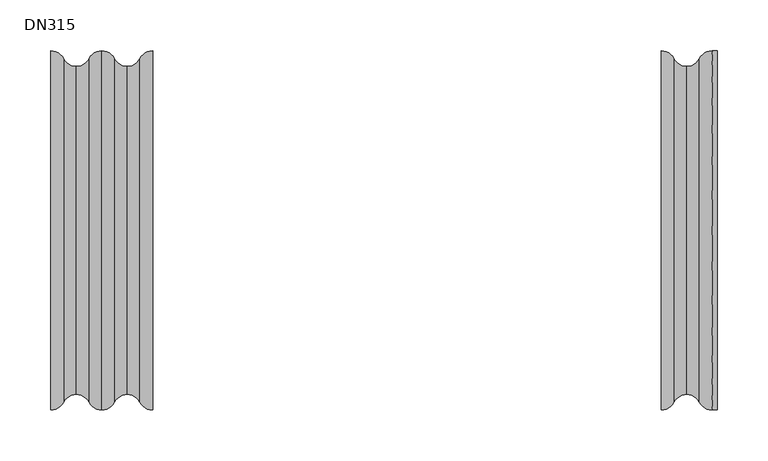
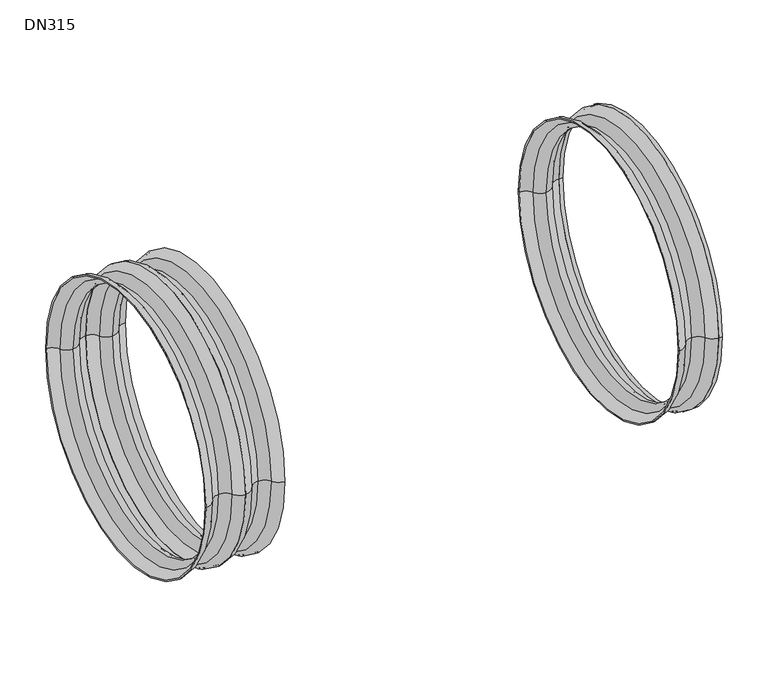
"""IFC4 building model written with IfcOpenShell, lengths in millimetres: pipe fitting geometry, NLRS-90-PIF_Z_DO_NOT_USE_Wavin PVC Buitenriolering Schachtbuis (Nested) : DN315."""

import ifcopenshell
import ifcopenshell.guid

model = None  # the IFC model being written
_history = None  # IfcOwnerHistory: only IFC2X3 demands one
_inside = {}  # id of a spatial element -> (the spatial element, [elements in it])
_under = {}  # id of a project, library or spatial element -> (it, [spatial elements below it])
_declared = {}  # id of a project -> (the project, [libraries it declares])
_typed = {}  # id of a type object -> (the type object, [elements of that type])
_made_of = {}  # id of a material, layer set ... -> (it, [elements and type objects made of it])


def new_model(schema):
    """Start an empty IFC model of exactly this schema.

    Asked for "IFC4X3", IfcOpenShell would pick the latest addendum, in which some entities
    have other attributes; the version numbers below select the first issue.
    IFC2X3 requires an IfcOwnerHistory on every rooted entity: one is made here for all.
    """
    global model, _history
    if schema == "IFC4X3":
        model = ifcopenshell.file(schema_version=(4, 3, 0, 0))
    else:
        model = ifcopenshell.file(schema=schema)
    _inside.clear()
    _under.clear()
    _declared.clear()
    _typed.clear()
    _made_of.clear()
    _history = None
    if model.schema == "IFC2X3":
        org = make("IfcOrganization", Name="unknown")
        user = make(
            "IfcPersonAndOrganization",
            ThePerson=make("IfcPerson", FamilyName="unknown"),
            TheOrganization=org,
        )
        app = make(
            "IfcApplication",
            ApplicationDeveloper=org,
            Version="unknown",
            ApplicationFullName="unknown",
            ApplicationIdentifier="unknown",
        )
        _history = make(
            "IfcOwnerHistory",
            OwningUser=user,
            OwningApplication=app,
            ChangeAction="ADDED",
            CreationDate=0,
        )
    return model


def make(cls, **values):
    """One entity of the class cls with the attributes given. An attribute that is None is left unset."""
    return model.create_entity(
        cls, **{name: value for name, value in values.items() if value is not None}
    )


def rooted(cls, **values):
    """An entity with a GlobalId (a new one), such as an element, a storey or a relation."""
    return make(cls, GlobalId=ifcopenshell.guid.new(), OwnerHistory=_history, **values)


def si_unit(unit_type, name, prefix=None):
    """IfcSIUnit, for example si_unit("LENGTHUNIT", "METRE", prefix="MILLI")."""
    return make("IfcSIUnit", UnitType=unit_type, Prefix=prefix, Name=name)


def assignment(units):
    """IfcUnitAssignment: the units of a project."""
    return None if units is None else make("IfcUnitAssignment", Units=units)


def point(xyz):
    """IfcCartesianPoint."""
    return None if xyz is None else make("IfcCartesianPoint", Coordinates=xyz)


def direction(xyz):
    """IfcDirection."""
    return None if xyz is None else make("IfcDirection", DirectionRatios=xyz)


def frame(location, z_axis=None, x_axis=None):
    """IfcAxis2Placement3D, a coordinate frame: its origin and axes. An axis left out is left unset."""
    return make(
        "IfcAxis2Placement3D",
        Location=point(location),
        Axis=direction(z_axis),
        RefDirection=direction(x_axis),
    )


def origin():
    """The frame at (0, 0, 0) with its axes left unset."""
    return frame((0.0, 0.0, 0.0))


def place(relative_to, where):
    """IfcLocalPlacement: puts the frame where relative to a parent placement (None: the world)."""
    return make(
        "IfcLocalPlacement", PlacementRelTo=relative_to, RelativePlacement=where
    )


def context(
    kind, dimensions, precision=None, world=None, true_north=None, identifier=None
):
    """IfcGeometricRepresentationContext, for example the 3D "Model" context."""
    return make(
        "IfcGeometricRepresentationContext",
        ContextIdentifier=identifier,
        ContextType=kind,
        CoordinateSpaceDimension=dimensions,
        Precision=precision,
        WorldCoordinateSystem=world,
        TrueNorth=true_north,
    )


def project(units=None, contexts=None):
    """IfcProject with its units and contexts."""
    return rooted(
        "IfcProject",
        Name="project",
        RepresentationContexts=contexts,
        UnitsInContext=assignment(units),
    )


def spatial(cls, under=None, at=None, **own):
    """A site, building, storey or space (cls), placed at a placement, below another one or the project."""
    s = rooted(cls, ObjectPlacement=at, **own)
    if under is not None:
        _under.setdefault(under.id(), (under, []))[1].append(s)
    return s


def polyline(points):
    """IfcPolyline through the points."""
    return make("IfcPolyline", Points=[point(p) for p in points])


def circle_curve(where, radius):
    """IfcCircle in the frame where."""
    return make("IfcCircle", Position=where, Radius=radius)


def ellipse_curve(where, semi_axis1, semi_axis2):
    """IfcEllipse in the frame where."""
    return make(
        "IfcEllipse", Position=where, SemiAxis1=semi_axis1, SemiAxis2=semi_axis2
    )


def trimmed(basis, trim1, trim2, sense, master):
    """IfcTrimmedCurve: the piece of a basis curve between two trims."""
    return make(
        "IfcTrimmedCurve",
        BasisCurve=basis,
        Trim1=trim1,
        Trim2=trim2,
        SenseAgreement=sense,
        MasterRepresentation=master,
    )


def shape(context_of_items, identifier, shape_type, items):
    """IfcShapeRepresentation: the items that make up one representation, for example the "Body"."""
    return make(
        "IfcShapeRepresentation",
        ContextOfItems=context_of_items,
        RepresentationIdentifier=identifier,
        RepresentationType=shape_type,
        Items=items,
    )


def source(mapping_origin, context_of_items, identifier, shape_type, items):
    """IfcRepresentationMap: a shape defined once, which mapped items show again and again."""
    return make(
        "IfcRepresentationMap",
        MappingOrigin=mapping_origin,
        MappedRepresentation=shape(context_of_items, identifier, shape_type, items),
    )


def transform(
    local_origin,
    x_axis=None,
    y_axis=None,
    z_axis=None,
    scale=None,
    scale2=None,
    scale3=None,
    uniform=True,
):
    """IfcCartesianTransformationOperator3D, or its non-uniform kind. x_axis, y_axis, z_axis: its Axis1, 2, 3."""
    if uniform:
        return make(
            "IfcCartesianTransformationOperator3D",
            Axis1=direction(x_axis),
            Axis2=direction(y_axis),
            LocalOrigin=point(local_origin),
            Scale=scale,
            Axis3=direction(z_axis),
        )
    return make(
        "IfcCartesianTransformationOperator3DnonUniform",
        Axis1=direction(x_axis),
        Axis2=direction(y_axis),
        LocalOrigin=point(local_origin),
        Scale=scale,
        Axis3=direction(z_axis),
        Scale2=scale2,
        Scale3=scale3,
    )


def mapped(mapping_source, mapping_target):
    """IfcMappedItem: shows the shape of a source again, moved by a transform."""
    return make(
        "IfcMappedItem", MappingSource=mapping_source, MappingTarget=mapping_target
    )


def made_of(thing, what):
    """Note that an element or type object is made of a material, layer set ...; save() writes the relation."""
    if what is not None:
        _made_of.setdefault(what.id(), (what, []))[1].append(thing)
    return thing


def element(
    cls,
    number,
    at=None,
    inside=None,
    cuts=None,
    type_object=None,
    material=None,
    context=None,
    identifier="Body",
    shape_type=None,
    held_by="IfcProductDefinitionShape",
    body=None,
    shapes=None,
    **own,
):
    """One element of the class cls, such as IfcWall. Its Tag is "e" and its number.

    at: its placement. inside: the storey or other place that contains it. cuts: it is an
    opening in that element (IfcRelVoidsElement). A single representation is given by context,
    identifier, shape_type and body (its items); several are given by shapes. held_by: the class
    of the entity that holds the representations. save() writes the other relations.
    """
    e = rooted(cls, Tag="e%d" % number, ObjectPlacement=at, **own)
    if body is not None:
        shapes = [shape(context, identifier, shape_type, body)]
    if shapes is not None:
        e.Representation = make(held_by, Representations=shapes)
    if inside is not None:
        _inside.setdefault(inside.id(), (inside, []))[1].append(e)
    if cuts is not None:
        rooted(
            "IfcRelVoidsElement", RelatingBuildingElement=cuts, RelatedOpeningElement=e
        )
    if type_object is not None:
        _typed.setdefault(type_object.id(), (type_object, []))[1].append(e)
    return made_of(e, material)


def aggregate(whole, parts):
    """IfcRelAggregates: a whole, such as a stair, and the parts it consists of."""
    return rooted("IfcRelAggregates", RelatingObject=whole, RelatedObjects=parts)


def save(model, path):
    """Write the relations noted so far, then the file.

    IfcRelAggregates (storeys below a building ...), IfcRelContainedInSpatialStructure (elements
    in a storey), IfcRelDefinesByType, IfcRelAssociatesMaterial and IfcRelDeclares: one each for
    every whole, place, type object, material and project.
    """
    for whole, parts in _under.values():
        aggregate(whole, parts)
    for where, things in _inside.values():
        rooted(
            "IfcRelContainedInSpatialStructure",
            RelatedElements=things,
            RelatingStructure=where,
        )
    for kind, things in _typed.values():
        rooted("IfcRelDefinesByType", RelatedObjects=things, RelatingType=kind)
    for what, things in _made_of.values():
        rooted("IfcRelAssociatesMaterial", RelatedObjects=things, RelatingMaterial=what)
    for by, libraries in _declared.values():
        rooted("IfcRelDeclares", RelatingContext=by, RelatedDefinitions=libraries)
    model.write(path)


def plane_surface(at):
    """IfcPlane: the flat surface through the origin of the frame at, square to its z axis."""
    return make("IfcPlane", Position=at)


def cylinder_surface(at, radius):
    """IfcCylindricalSurface: all points at the distance radius from the z axis of the frame at."""
    return make("IfcCylindricalSurface", Position=at, Radius=radius)


def revolved_surface(curve, axis_point, axis_direction):
    """IfcSurfaceOfRevolution: the curve turned about the line through axis_point along axis_direction."""
    return make(
        "IfcSurfaceOfRevolution",
        SweptCurve=make("IfcArbitraryOpenProfileDef", ProfileType="CURVE", Curve=curve),
        AxisPosition=make("IfcAxis1Placement", Location=point(axis_point), Axis=direction(axis_direction)),
    )


def advanced_brep(points, edges, surfaces, faces):
    """IfcAdvancedBrep: a solid bounded by faces that lie on surfaces and meet in shared edges.

    An edge is (start, end): straight between two places in points (the first is 0);
    or (start, end, curve); or (start, end, curve, False) where it runs against its curve.
    A face is (place in surfaces, loops), or (place, loops, False) where it looks against
    its surface's normal. A loop lists edges by number (the first is 1), with a minus sign
    where the edge is run from its end to its start. The first loop is the outer one.
    """
    corners = [point(p) for p in points]
    vertices = [make("IfcVertexPoint", VertexGeometry=c) for c in corners]
    made = []
    for start, end, *more in edges:
        made.append(
            make(
                "IfcEdgeCurve",
                EdgeStart=vertices[start],
                EdgeEnd=vertices[end],
                EdgeGeometry=more[0] if more else make("IfcPolyline", Points=[corners[start], corners[end]]),
                SameSense=more[1] if len(more) > 1 else True,
            )
        )
    hull = []
    for where, loops, *sense in faces:
        bounds = []
        for j, loop in enumerate(loops):
            ring = [make("IfcOrientedEdge", EdgeElement=made[abs(k) - 1], Orientation=k > 0) for k in loop]
            bounds.append(
                make(
                    "IfcFaceOuterBound" if j == 0 else "IfcFaceBound",
                    Bound=make("IfcEdgeLoop", EdgeList=ring),
                    Orientation=True,
                )
            )
        hull.append(make("IfcAdvancedFace", Bounds=bounds, FaceSurface=surfaces[where], SameSense=sense[0] if sense else True))
    return make("IfcAdvancedBrep", Outer=make("IfcClosedShell", CfsFaces=hull))


def dn315_4a5b688f(model_context):
    return source(origin(), model_context, "Body", "AdvancedBrep", [
        advanced_brep(
        [(50.0, -176.5, 0.0), (50.0, 176.5, 0.0), (62.5, 168.85, 0.0), (62.5, -168.85, 0.0), (50.0, -174.8, 0.0), (50.0, 174.8, 0.0), (62.5, -167.15, 0.0), (62.5, 167.15, 0.0), (75.0, -159.5, 0.0), (75.0, 159.5, 0.0), (87.5, -167.15, 0.0), (87.5, 167.15, 0.0), (100.0, -174.8, 0.0), (100.0, 174.8, 0.0), (100.0, -176.5, 0.0), (100.0, 176.5, 0.0), (87.5, -168.85, 0.0), (87.5, 168.85, 0.0), (75.0, -161.2, 0.0), (75.0, 161.2, 0.0)],
        [
            (0, 1, circle_curve(frame((50.0, 0.0, 0.0), z_axis=(1.0, 0.0, 0.0), x_axis=(0.0, 1.0, 0.0)), 176.5)),
            (1, 2, circle_curve(frame((50.0, 162.4625817, 0.0), z_axis=(0.0, 0.0, -1.0), x_axis=(1.0, 0.0, 0.0)), 14.0374183)),
            (2, 3, circle_curve(frame((62.5, 0.0, 0.0), z_axis=(-1.0, 0.0, 0.0), x_axis=(0.0, 1.0, 0.0)), 168.85)),
            (3, 0, circle_curve(frame((50.0, -162.4625817, 0.0), z_axis=(0.0, 0.0, -1.0), x_axis=(1.0, 0.0, 0.0)), 14.0374183)),
            (1, 0, circle_curve(frame((50.0, 0.0, 0.0), z_axis=(1.0, 0.0, 0.0), x_axis=(0.0, 1.0, 0.0)), 176.5)),
            (3, 2, circle_curve(frame((62.5, 0.0, 0.0), z_axis=(-1.0, 0.0, 0.0), x_axis=(0.0, 1.0, 0.0)), 168.85)),
            (4, 5, circle_curve(frame((50.0, 0.0, 0.0), z_axis=(1.0, 0.0, 0.0), x_axis=(0.0, 1.0, 0.0)), 174.8)),
            (5, 1),
            (0, 4),
            (5, 4, circle_curve(frame((50.0, 0.0, 0.0), z_axis=(1.0, 0.0, 0.0), x_axis=(0.0, 1.0, 0.0)), 174.8)),
            (6, 7, circle_curve(frame((62.5, 0.0, 0.0), z_axis=(1.0, 0.0, 0.0), x_axis=(0.0, 1.0, 0.0)), 167.15)),
            (7, 5, circle_curve(frame((50.0, 160.7625817, 0.0), z_axis=(0.0, 0.0, 1.0), x_axis=(1.0, 0.0, 0.0)), 14.0374183)),
            (4, 6, circle_curve(frame((50.0, -160.7625817, 0.0), z_axis=(0.0, 0.0, 1.0), x_axis=(1.0, 0.0, 0.0)), 14.0374183)),
            (7, 6, circle_curve(frame((62.5, 0.0, 0.0), z_axis=(1.0, 0.0, 0.0), x_axis=(0.0, 1.0, 0.0)), 167.15)),
            (8, 9, circle_curve(frame((75.0, 0.0, 0.0), z_axis=(1.0, 0.0, 0.0), x_axis=(0.0, 1.0, 0.0)), 159.5)),
            (9, 7, circle_curve(frame((75.0, 173.5374183, 0.0), z_axis=(0.0, 0.0, -1.0), x_axis=(1.0, 0.0, 0.0)), 14.0374183)),
            (6, 8, circle_curve(frame((75.0, -173.5374183, 0.0), z_axis=(0.0, 0.0, -1.0), x_axis=(1.0, 0.0, 0.0)), 14.0374183)),
            (9, 8, circle_curve(frame((75.0, 0.0, 0.0), z_axis=(1.0, 0.0, 0.0), x_axis=(0.0, 1.0, 0.0)), 159.5)),
            (10, 11, circle_curve(frame((87.5, 0.0, 0.0), z_axis=(1.0, 0.0, 0.0), x_axis=(0.0, 1.0, 0.0)), 167.15)),
            (11, 9, circle_curve(frame((75.0, 173.5374183, 0.0), z_axis=(0.0, 0.0, -1.0), x_axis=(1.0, 0.0, 0.0)), 14.0374183)),
            (8, 10, circle_curve(frame((75.0, -173.5374183, 0.0), z_axis=(0.0, 0.0, -1.0), x_axis=(1.0, 0.0, 0.0)), 14.0374183)),
            (11, 10, circle_curve(frame((87.5, 0.0, 0.0), z_axis=(1.0, 0.0, 0.0), x_axis=(0.0, 1.0, 0.0)), 167.15)),
            (12, 13, circle_curve(frame((100.0, 0.0, 0.0), z_axis=(1.0, 0.0, 0.0), x_axis=(0.0, 1.0, 0.0)), 174.8)),
            (13, 11, circle_curve(frame((100.0, 160.7625817, 0.0), z_axis=(0.0, 0.0, 1.0), x_axis=(1.0, 0.0, 0.0)), 14.0374183)),
            (10, 12, circle_curve(frame((100.0, -160.7625817, 0.0), z_axis=(0.0, 0.0, 1.0), x_axis=(1.0, 0.0, 0.0)), 14.0374183)),
            (13, 12, circle_curve(frame((100.0, 0.0, 0.0), z_axis=(1.0, 0.0, 0.0), x_axis=(0.0, 1.0, 0.0)), 174.8)),
            (14, 15, circle_curve(frame((100.0, 0.0, 0.0), z_axis=(1.0, 0.0, 0.0), x_axis=(0.0, 1.0, 0.0)), 176.5)),
            (15, 13),
            (12, 14),
            (15, 14, circle_curve(frame((100.0, 0.0, 0.0), z_axis=(1.0, 0.0, 0.0), x_axis=(0.0, 1.0, 0.0)), 176.5)),
            (16, 17, circle_curve(frame((87.5, 0.0, 0.0), z_axis=(1.0, 0.0, 0.0), x_axis=(0.0, 1.0, 0.0)), 168.85)),
            (17, 15, circle_curve(frame((100.0, 162.4625817, 0.0), z_axis=(0.0, 0.0, -1.0), x_axis=(1.0, 0.0, 0.0)), 14.0374183)),
            (14, 16, circle_curve(frame((100.0, -162.4625817, 0.0), z_axis=(0.0, 0.0, -1.0), x_axis=(1.0, 0.0, 0.0)), 14.0374183)),
            (17, 16, circle_curve(frame((87.5, 0.0, 0.0), z_axis=(1.0, 0.0, 0.0), x_axis=(0.0, 1.0, 0.0)), 168.85)),
            (18, 19, circle_curve(frame((75.0, 0.0, 0.0), z_axis=(1.0, 0.0, 0.0), x_axis=(0.0, 1.0, 0.0)), 161.2)),
            (19, 17, circle_curve(frame((75.0, 175.2374183, 0.0), z_axis=(0.0, 0.0, 1.0), x_axis=(1.0, 0.0, 0.0)), 14.0374183)),
            (16, 18, circle_curve(frame((75.0, -175.2374183, 0.0), z_axis=(0.0, 0.0, 1.0), x_axis=(1.0, 0.0, 0.0)), 14.0374183)),
            (19, 18, circle_curve(frame((75.0, 0.0, 0.0), z_axis=(1.0, 0.0, 0.0), x_axis=(0.0, 1.0, 0.0)), 161.2)),
            (2, 19, circle_curve(frame((75.0, 175.2374183, 0.0), z_axis=(0.0, 0.0, 1.0), x_axis=(1.0, 0.0, 0.0)), 14.0374183)),
            (18, 3, circle_curve(frame((75.0, -175.2374183, 0.0), z_axis=(0.0, 0.0, 1.0), x_axis=(1.0, 0.0, 0.0)), 14.0374183)),
        ],
        [
            revolved_surface(trimmed(ellipse_curve(frame((50.0, 162.4625817, 0.0), z_axis=(0.0, 0.0, 1.0), x_axis=(1.0, 0.0, 0.0)), 14.0374183, 14.0374183), [point((62.5, 168.85, 0.0))], [point((50.0, 176.5, 0.0))], True, "CARTESIAN"), (0.0, 0.0, 0.0), (-1.0, 0.0, 0.0)),
            plane_surface(frame((50.0, 0.0, 0.0), z_axis=(-1.0, 0.0, 0.0), x_axis=(0.0, 1.0, 0.0))),
            revolved_surface(trimmed(ellipse_curve(frame((50.0, 160.7625817, 0.0), z_axis=(0.0, 0.0, -1.0), x_axis=(1.0, 0.0, 0.0)), 14.0374183, 14.0374183), [point((50.0, 174.8, 0.0))], [point((62.5, 167.15, 0.0))], True, "CARTESIAN"), (0.0, 0.0, 0.0), (-1.0, 0.0, 0.0)),
            revolved_surface(trimmed(ellipse_curve(frame((75.0, 173.5374183, 0.0), z_axis=(0.0, 0.0, 1.0), x_axis=(1.0, 0.0, 0.0)), 14.0374183, 14.0374183), [point((62.5, 167.15, 0.0))], [point((75.0, 159.5, 0.0))], True, "CARTESIAN"), (0.0, 0.0, 0.0), (-1.0, 0.0, 0.0)),
            revolved_surface(trimmed(ellipse_curve(frame((75.0, 173.5374183, 0.0), z_axis=(0.0, 0.0, 1.0), x_axis=(1.0, 0.0, 0.0)), 14.0374183, 14.0374183), [point((75.0, 159.5, 0.0))], [point((87.5, 167.15, 0.0))], True, "CARTESIAN"), (0.0, 0.0, 0.0), (-1.0, 0.0, 0.0)),
            revolved_surface(trimmed(ellipse_curve(frame((100.0, 160.7625817, 0.0), z_axis=(0.0, 0.0, -1.0), x_axis=(1.0, 0.0, 0.0)), 14.0374183, 14.0374183), [point((87.5, 167.15, 0.0))], [point((100.0, 174.8, 0.0))], True, "CARTESIAN"), (0.0, 0.0, 0.0), (-1.0, 0.0, 0.0)),
            plane_surface(frame((100.0, 0.0, 0.0), z_axis=(1.0, 0.0, 0.0), x_axis=(0.0, 1.0, 0.0))),
            revolved_surface(trimmed(ellipse_curve(frame((100.0, 162.4625817, 0.0), z_axis=(0.0, 0.0, 1.0), x_axis=(1.0, 0.0, 0.0)), 14.0374183, 14.0374183), [point((100.0, 176.5, 0.0))], [point((87.5, 168.85, 0.0))], True, "CARTESIAN"), (0.0, 0.0, 0.0), (-1.0, 0.0, 0.0)),
            revolved_surface(trimmed(ellipse_curve(frame((75.0, 175.2374183, 0.0), z_axis=(0.0, 0.0, -1.0), x_axis=(1.0, 0.0, 0.0)), 14.0374183, 14.0374183), [point((87.5, 168.85, 0.0))], [point((75.0, 161.2, 0.0))], True, "CARTESIAN"), (0.0, 0.0, 0.0), (-1.0, 0.0, 0.0)),
            revolved_surface(trimmed(ellipse_curve(frame((75.0, 175.2374183, 0.0), z_axis=(0.0, 0.0, -1.0), x_axis=(1.0, 0.0, 0.0)), 14.0374183, 14.0374183), [point((75.0, 161.2, 0.0))], [point((62.5, 168.85, 0.0))], True, "CARTESIAN"), (0.0, 0.0, 0.0), (-1.0, 0.0, 0.0)),
        ],
        [
            (0, [[1, 2, 3, 4]]),
            (0, [[5, -4, 6, -2]]),
            (1, [[7, 8, -1, 9]]),
            (1, [[10, -9, -5, -8]]),
            (2, [[11, 12, -7, 13]]),
            (2, [[14, -13, -10, -12]]),
            (3, [[15, 16, -11, 17]]),
            (3, [[18, -17, -14, -16]]),
            (4, [[19, 20, -15, 21]]),
            (4, [[22, -21, -18, -20]]),
            (5, [[23, 24, -19, 25]]),
            (5, [[26, -25, -22, -24]]),
            (6, [[27, 28, -23, 29]]),
            (6, [[30, -29, -26, -28]]),
            (7, [[31, 32, -27, 33]]),
            (7, [[34, -33, -30, -32]]),
            (8, [[35, 36, -31, 37]]),
            (8, [[38, -37, -34, -36]]),
            (9, [[-3, 39, -35, 40]]),
            (9, [[-6, -40, -38, -39]]),
        ],
    ),
        advanced_brep(
        [(600.0, -176.5, 0.0), (600.0, 176.5, 0.0), (612.5, 168.85, 0.0), (612.5, -168.85, 0.0), (600.0, -174.8, 0.0), (600.0, 174.8, 0.0), (612.5, -167.15, 0.0), (612.5, 167.15, 0.0), (625.0, -159.5, 0.0), (625.0, 159.5, 0.0), (637.5, -167.15, 0.0), (637.5, 167.15, 0.0), (650.0, -174.8, 0.0), (650.0, 174.8, 0.0), (650.0, -176.5, 0.0), (650.0, 176.5, 0.0), (637.5, -168.85, 0.0), (637.5, 168.85, 0.0), (625.0, -161.2, 0.0), (625.0, 161.2, 0.0)],
        [
            (0, 1, circle_curve(frame((600.0, 0.0, 0.0), z_axis=(1.0, 0.0, 0.0), x_axis=(0.0, 1.0, 0.0)), 176.5)),
            (1, 2, circle_curve(frame((600.0, 162.4625817, 0.0), z_axis=(0.0, 0.0, -1.0), x_axis=(1.0, 0.0, 0.0)), 14.0374183)),
            (2, 3, circle_curve(frame((612.5, 0.0, 0.0), z_axis=(-1.0, 0.0, 0.0), x_axis=(0.0, 1.0, 0.0)), 168.85)),
            (3, 0, circle_curve(frame((600.0, -162.4625817, 0.0), z_axis=(0.0, 0.0, -1.0), x_axis=(1.0, 0.0, 0.0)), 14.0374183)),
            (1, 0, circle_curve(frame((600.0, 0.0, 0.0), z_axis=(1.0, 0.0, 0.0), x_axis=(0.0, 1.0, 0.0)), 176.5)),
            (3, 2, circle_curve(frame((612.5, 0.0, 0.0), z_axis=(-1.0, 0.0, 0.0), x_axis=(0.0, 1.0, 0.0)), 168.85)),
            (4, 5, circle_curve(frame((600.0, 0.0, 0.0), z_axis=(1.0, 0.0, 0.0), x_axis=(0.0, 1.0, 0.0)), 174.8)),
            (5, 1),
            (0, 4),
            (5, 4, circle_curve(frame((600.0, 0.0, 0.0), z_axis=(1.0, 0.0, 0.0), x_axis=(0.0, 1.0, 0.0)), 174.8)),
            (6, 7, circle_curve(frame((612.5, 0.0, 0.0), z_axis=(1.0, 0.0, 0.0), x_axis=(0.0, 1.0, 0.0)), 167.15)),
            (7, 5, circle_curve(frame((600.0, 160.7625817, 0.0), z_axis=(0.0, 0.0, 1.0), x_axis=(1.0, 0.0, 0.0)), 14.0374183)),
            (4, 6, circle_curve(frame((600.0, -160.7625817, 0.0), z_axis=(0.0, 0.0, 1.0), x_axis=(1.0, 0.0, 0.0)), 14.0374183)),
            (7, 6, circle_curve(frame((612.5, 0.0, 0.0), z_axis=(1.0, 0.0, 0.0), x_axis=(0.0, 1.0, 0.0)), 167.15)),
            (8, 9, circle_curve(frame((625.0, 0.0, 0.0), z_axis=(1.0, 0.0, 0.0), x_axis=(0.0, 1.0, 0.0)), 159.5)),
            (9, 7, circle_curve(frame((625.0, 173.5374183, 0.0), z_axis=(0.0, 0.0, -1.0), x_axis=(1.0, 0.0, 0.0)), 14.0374183)),
            (6, 8, circle_curve(frame((625.0, -173.5374183, 0.0), z_axis=(0.0, 0.0, -1.0), x_axis=(1.0, 0.0, 0.0)), 14.0374183)),
            (9, 8, circle_curve(frame((625.0, 0.0, 0.0), z_axis=(1.0, 0.0, 0.0), x_axis=(0.0, 1.0, 0.0)), 159.5)),
            (10, 11, circle_curve(frame((637.5, 0.0, 0.0), z_axis=(1.0, 0.0, 0.0), x_axis=(0.0, 1.0, 0.0)), 167.15)),
            (11, 9, circle_curve(frame((625.0, 173.5374183, 0.0), z_axis=(0.0, 0.0, -1.0), x_axis=(1.0, 0.0, 0.0)), 14.0374183)),
            (8, 10, circle_curve(frame((625.0, -173.5374183, 0.0), z_axis=(0.0, 0.0, -1.0), x_axis=(1.0, 0.0, 0.0)), 14.0374183)),
            (11, 10, circle_curve(frame((637.5, 0.0, 0.0), z_axis=(1.0, 0.0, 0.0), x_axis=(0.0, 1.0, 0.0)), 167.15)),
            (12, 13, circle_curve(frame((650.0, 0.0, 0.0), z_axis=(1.0, 0.0, 0.0), x_axis=(0.0, 1.0, 0.0)), 174.8)),
            (13, 11, circle_curve(frame((650.0, 160.7625817, 0.0), z_axis=(0.0, 0.0, 1.0), x_axis=(1.0, 0.0, 0.0)), 14.0374183)),
            (10, 12, circle_curve(frame((650.0, -160.7625817, 0.0), z_axis=(0.0, 0.0, 1.0), x_axis=(1.0, 0.0, 0.0)), 14.0374183)),
            (13, 12, circle_curve(frame((650.0, 0.0, 0.0), z_axis=(1.0, 0.0, 0.0), x_axis=(0.0, 1.0, 0.0)), 174.8)),
            (14, 15, circle_curve(frame((650.0, 0.0, 0.0), z_axis=(1.0, 0.0, 0.0), x_axis=(0.0, 1.0, 0.0)), 176.5)),
            (15, 13),
            (12, 14),
            (15, 14, circle_curve(frame((650.0, 0.0, 0.0), z_axis=(1.0, 0.0, 0.0), x_axis=(0.0, 1.0, 0.0)), 176.5)),
            (16, 17, circle_curve(frame((637.5, 0.0, 0.0), z_axis=(1.0, 0.0, 0.0), x_axis=(0.0, 1.0, 0.0)), 168.85)),
            (17, 15, circle_curve(frame((650.0, 162.4625817, 0.0), z_axis=(0.0, 0.0, -1.0), x_axis=(1.0, 0.0, 0.0)), 14.0374183)),
            (14, 16, circle_curve(frame((650.0, -162.4625817, 0.0), z_axis=(0.0, 0.0, -1.0), x_axis=(1.0, 0.0, 0.0)), 14.0374183)),
            (17, 16, circle_curve(frame((637.5, 0.0, 0.0), z_axis=(1.0, 0.0, 0.0), x_axis=(0.0, 1.0, 0.0)), 168.85)),
            (18, 19, circle_curve(frame((625.0, 0.0, 0.0), z_axis=(1.0, 0.0, 0.0), x_axis=(0.0, 1.0, 0.0)), 161.2)),
            (19, 17, circle_curve(frame((625.0, 175.2374183, 0.0), z_axis=(0.0, 0.0, 1.0), x_axis=(1.0, 0.0, 0.0)), 14.0374183)),
            (16, 18, circle_curve(frame((625.0, -175.2374183, 0.0), z_axis=(0.0, 0.0, 1.0), x_axis=(1.0, 0.0, 0.0)), 14.0374183)),
            (19, 18, circle_curve(frame((625.0, 0.0, 0.0), z_axis=(1.0, 0.0, 0.0), x_axis=(0.0, 1.0, 0.0)), 161.2)),
            (2, 19, circle_curve(frame((625.0, 175.2374183, 0.0), z_axis=(0.0, 0.0, 1.0), x_axis=(1.0, 0.0, 0.0)), 14.0374183)),
            (18, 3, circle_curve(frame((625.0, -175.2374183, 0.0), z_axis=(0.0, 0.0, 1.0), x_axis=(1.0, 0.0, 0.0)), 14.0374183)),
        ],
        [
            revolved_surface(trimmed(ellipse_curve(frame((600.0, 162.4625817, 0.0), z_axis=(0.0, 0.0, 1.0), x_axis=(1.0, 0.0, 0.0)), 14.0374183, 14.0374183), [point((612.5, 168.85, 0.0))], [point((600.0, 176.5, 0.0))], True, "CARTESIAN"), (550.0, 0.0, 0.0), (-1.0, 0.0, 0.0)),
            plane_surface(frame((600.0, 0.0, 0.0), z_axis=(-1.0, 0.0, 0.0), x_axis=(0.0, 1.0, 0.0))),
            revolved_surface(trimmed(ellipse_curve(frame((600.0, 160.7625817, 0.0), z_axis=(0.0, 0.0, -1.0), x_axis=(1.0, 0.0, 0.0)), 14.0374183, 14.0374183), [point((600.0, 174.8, 0.0))], [point((612.5, 167.15, 0.0))], True, "CARTESIAN"), (550.0, 0.0, 0.0), (-1.0, 0.0, 0.0)),
            revolved_surface(trimmed(ellipse_curve(frame((625.0, 173.5374183, 0.0), z_axis=(0.0, 0.0, 1.0), x_axis=(1.0, 0.0, 0.0)), 14.0374183, 14.0374183), [point((612.5, 167.15, 0.0))], [point((625.0, 159.5, 0.0))], True, "CARTESIAN"), (550.0, 0.0, 0.0), (-1.0, 0.0, 0.0)),
            revolved_surface(trimmed(ellipse_curve(frame((625.0, 173.5374183, 0.0), z_axis=(0.0, 0.0, 1.0), x_axis=(1.0, 0.0, 0.0)), 14.0374183, 14.0374183), [point((625.0, 159.5, 0.0))], [point((637.5, 167.15, 0.0))], True, "CARTESIAN"), (550.0, 0.0, 0.0), (-1.0, 0.0, 0.0)),
            revolved_surface(trimmed(ellipse_curve(frame((650.0, 160.7625817, 0.0), z_axis=(0.0, 0.0, -1.0), x_axis=(1.0, 0.0, 0.0)), 14.0374183, 14.0374183), [point((637.5, 167.15, 0.0))], [point((650.0, 174.8, 0.0))], True, "CARTESIAN"), (550.0, 0.0, 0.0), (-1.0, 0.0, 0.0)),
            plane_surface(frame((650.0, 0.0, 0.0), z_axis=(1.0, 0.0, 0.0), x_axis=(0.0, 1.0, 0.0))),
            revolved_surface(trimmed(ellipse_curve(frame((650.0, 162.4625817, 0.0), z_axis=(0.0, 0.0, 1.0), x_axis=(1.0, 0.0, 0.0)), 14.0374183, 14.0374183), [point((650.0, 176.5, 0.0))], [point((637.5, 168.85, 0.0))], True, "CARTESIAN"), (550.0, 0.0, 0.0), (-1.0, 0.0, 0.0)),
            revolved_surface(trimmed(ellipse_curve(frame((625.0, 175.2374183, 0.0), z_axis=(0.0, 0.0, -1.0), x_axis=(1.0, 0.0, 0.0)), 14.0374183, 14.0374183), [point((637.5, 168.85, 0.0))], [point((625.0, 161.2, 0.0))], True, "CARTESIAN"), (550.0, 0.0, 0.0), (-1.0, 0.0, 0.0)),
            revolved_surface(trimmed(ellipse_curve(frame((625.0, 175.2374183, 0.0), z_axis=(0.0, 0.0, -1.0), x_axis=(1.0, 0.0, 0.0)), 14.0374183, 14.0374183), [point((625.0, 161.2, 0.0))], [point((612.5, 168.85, 0.0))], True, "CARTESIAN"), (550.0, 0.0, 0.0), (-1.0, 0.0, 0.0)),
        ],
        [
            (0, [[1, 2, 3, 4]]),
            (0, [[5, -4, 6, -2]]),
            (1, [[7, 8, -1, 9]]),
            (1, [[10, -9, -5, -8]]),
            (2, [[11, 12, -7, 13]]),
            (2, [[14, -13, -10, -12]]),
            (3, [[15, 16, -11, 17]]),
            (3, [[18, -17, -14, -16]]),
            (4, [[19, 20, -15, 21]]),
            (4, [[22, -21, -18, -20]]),
            (5, [[23, 24, -19, 25]]),
            (5, [[26, -25, -22, -24]]),
            (6, [[27, 28, -23, 29]]),
            (6, [[30, -29, -26, -28]]),
            (7, [[31, 32, -27, 33]]),
            (7, [[34, -33, -30, -32]]),
            (8, [[35, 36, -31, 37]]),
            (8, [[38, -37, -34, -36]]),
            (9, [[-3, 39, -35, 40]]),
            (9, [[-6, -40, -38, -39]]),
        ],
    ),
        advanced_brep(
        [(0.0, -176.5, 0.0), (0.0, 176.5, 0.0), (12.5, 168.85, 0.0), (12.5, -168.85, 0.0), (0.0, -174.8, 0.0), (0.0, 174.8, 0.0), (12.5, -167.15, 0.0), (12.5, 167.15, 0.0), (25.0, -159.5, 0.0), (25.0, 159.5, 0.0), (37.5, -167.15, 0.0), (37.5, 167.15, 0.0), (50.0, -174.8, 0.0), (50.0, 174.8, 0.0), (50.0, -176.5, 0.0), (50.0, 176.5, 0.0), (37.5, -168.85, 0.0), (37.5, 168.85, 0.0), (25.0, -161.2, 0.0), (25.0, 161.2, 0.0)],
        [
            (0, 1, circle_curve(frame((0.0, 0.0, 0.0), z_axis=(1.0, 0.0, 0.0), x_axis=(0.0, 1.0, 0.0)), 176.5)),
            (1, 2, circle_curve(frame((0.0, 162.4625817, 0.0), z_axis=(0.0, 0.0, -1.0), x_axis=(1.0, 0.0, 0.0)), 14.0374183)),
            (2, 3, circle_curve(frame((12.5, 0.0, 0.0), z_axis=(-1.0, 0.0, 0.0), x_axis=(0.0, 1.0, 0.0)), 168.85)),
            (3, 0, circle_curve(frame((0.0, -162.4625817, 0.0), z_axis=(0.0, 0.0, -1.0), x_axis=(1.0, 0.0, 0.0)), 14.0374183)),
            (1, 0, circle_curve(frame((0.0, 0.0, 0.0), z_axis=(1.0, 0.0, 0.0), x_axis=(0.0, 1.0, 0.0)), 176.5)),
            (3, 2, circle_curve(frame((12.5, 0.0, 0.0), z_axis=(-1.0, 0.0, 0.0), x_axis=(0.0, 1.0, 0.0)), 168.85)),
            (4, 5, circle_curve(frame((0.0, 0.0, 0.0), z_axis=(1.0, 0.0, 0.0), x_axis=(0.0, 1.0, 0.0)), 174.8)),
            (5, 1),
            (0, 4),
            (5, 4, circle_curve(frame((0.0, 0.0, 0.0), z_axis=(1.0, 0.0, 0.0), x_axis=(0.0, 1.0, 0.0)), 174.8)),
            (6, 7, circle_curve(frame((12.5, 0.0, 0.0), z_axis=(1.0, 0.0, 0.0), x_axis=(0.0, 1.0, 0.0)), 167.15)),
            (7, 5, circle_curve(frame((0.0, 160.7625817, 0.0), z_axis=(0.0, 0.0, 1.0), x_axis=(1.0, 0.0, 0.0)), 14.0374183)),
            (4, 6, circle_curve(frame((0.0, -160.7625817, 0.0), z_axis=(0.0, 0.0, 1.0), x_axis=(1.0, 0.0, 0.0)), 14.0374183)),
            (7, 6, circle_curve(frame((12.5, 0.0, 0.0), z_axis=(1.0, 0.0, 0.0), x_axis=(0.0, 1.0, 0.0)), 167.15)),
            (8, 9, circle_curve(frame((25.0, 0.0, 0.0), z_axis=(1.0, 0.0, 0.0), x_axis=(0.0, 1.0, 0.0)), 159.5)),
            (9, 7, circle_curve(frame((25.0, 173.5374183, 0.0), z_axis=(0.0, 0.0, -1.0), x_axis=(1.0, 0.0, 0.0)), 14.0374183)),
            (6, 8, circle_curve(frame((25.0, -173.5374183, 0.0), z_axis=(0.0, 0.0, -1.0), x_axis=(1.0, 0.0, 0.0)), 14.0374183)),
            (9, 8, circle_curve(frame((25.0, 0.0, 0.0), z_axis=(1.0, 0.0, 0.0), x_axis=(0.0, 1.0, 0.0)), 159.5)),
            (10, 11, circle_curve(frame((37.5, 0.0, 0.0), z_axis=(1.0, 0.0, 0.0), x_axis=(0.0, 1.0, 0.0)), 167.15)),
            (11, 9, circle_curve(frame((25.0, 173.5374183, 0.0), z_axis=(0.0, 0.0, -1.0), x_axis=(1.0, 0.0, 0.0)), 14.0374183)),
            (8, 10, circle_curve(frame((25.0, -173.5374183, 0.0), z_axis=(0.0, 0.0, -1.0), x_axis=(1.0, 0.0, 0.0)), 14.0374183)),
            (11, 10, circle_curve(frame((37.5, 0.0, 0.0), z_axis=(1.0, 0.0, 0.0), x_axis=(0.0, 1.0, 0.0)), 167.15)),
            (12, 13, circle_curve(frame((50.0, 0.0, 0.0), z_axis=(1.0, 0.0, 0.0), x_axis=(0.0, 1.0, 0.0)), 174.8)),
            (13, 11, circle_curve(frame((50.0, 160.7625817, 0.0), z_axis=(0.0, 0.0, 1.0), x_axis=(1.0, 0.0, 0.0)), 14.0374183)),
            (10, 12, circle_curve(frame((50.0, -160.7625817, 0.0), z_axis=(0.0, 0.0, 1.0), x_axis=(1.0, 0.0, 0.0)), 14.0374183)),
            (13, 12, circle_curve(frame((50.0, 0.0, 0.0), z_axis=(1.0, 0.0, 0.0), x_axis=(0.0, 1.0, 0.0)), 174.8)),
            (14, 15, circle_curve(frame((50.0, 0.0, 0.0), z_axis=(1.0, 0.0, 0.0), x_axis=(0.0, 1.0, 0.0)), 176.5)),
            (15, 13),
            (12, 14),
            (15, 14, circle_curve(frame((50.0, 0.0, 0.0), z_axis=(1.0, 0.0, 0.0), x_axis=(0.0, 1.0, 0.0)), 176.5)),
            (16, 17, circle_curve(frame((37.5, 0.0, 0.0), z_axis=(1.0, 0.0, 0.0), x_axis=(0.0, 1.0, 0.0)), 168.85)),
            (17, 15, circle_curve(frame((50.0, 162.4625817, 0.0), z_axis=(0.0, 0.0, -1.0), x_axis=(1.0, 0.0, 0.0)), 14.0374183)),
            (14, 16, circle_curve(frame((50.0, -162.4625817, 0.0), z_axis=(0.0, 0.0, -1.0), x_axis=(1.0, 0.0, 0.0)), 14.0374183)),
            (17, 16, circle_curve(frame((37.5, 0.0, 0.0), z_axis=(1.0, 0.0, 0.0), x_axis=(0.0, 1.0, 0.0)), 168.85)),
            (18, 19, circle_curve(frame((25.0, 0.0, 0.0), z_axis=(1.0, 0.0, 0.0), x_axis=(0.0, 1.0, 0.0)), 161.2)),
            (19, 17, circle_curve(frame((25.0, 175.2374183, 0.0), z_axis=(0.0, 0.0, 1.0), x_axis=(1.0, 0.0, 0.0)), 14.0374183)),
            (16, 18, circle_curve(frame((25.0, -175.2374183, 0.0), z_axis=(0.0, 0.0, 1.0), x_axis=(1.0, 0.0, 0.0)), 14.0374183)),
            (19, 18, circle_curve(frame((25.0, 0.0, 0.0), z_axis=(1.0, 0.0, 0.0), x_axis=(0.0, 1.0, 0.0)), 161.2)),
            (2, 19, circle_curve(frame((25.0, 175.2374183, 0.0), z_axis=(0.0, 0.0, 1.0), x_axis=(1.0, 0.0, 0.0)), 14.0374183)),
            (18, 3, circle_curve(frame((25.0, -175.2374183, 0.0), z_axis=(0.0, 0.0, 1.0), x_axis=(1.0, 0.0, 0.0)), 14.0374183)),
        ],
        [
            revolved_surface(trimmed(ellipse_curve(frame((0.0, 162.4625817, 0.0), z_axis=(0.0, 0.0, 1.0), x_axis=(1.0, 0.0, 0.0)), 14.0374183, 14.0374183), [point((12.5, 168.85, 0.0))], [point((0.0, 176.5, 0.0))], True, "CARTESIAN"), (-50.0, 0.0, 0.0), (-1.0, 0.0, 0.0)),
            plane_surface(frame((0.0, 0.0, 0.0), z_axis=(-1.0, 0.0, 0.0), x_axis=(0.0, 1.0, 0.0))),
            revolved_surface(trimmed(ellipse_curve(frame((0.0, 160.7625817, 0.0), z_axis=(0.0, 0.0, -1.0), x_axis=(1.0, 0.0, 0.0)), 14.0374183, 14.0374183), [point((0.0, 174.8, 0.0))], [point((12.5, 167.15, 0.0))], True, "CARTESIAN"), (-50.0, 0.0, 0.0), (-1.0, 0.0, 0.0)),
            revolved_surface(trimmed(ellipse_curve(frame((25.0, 173.5374183, 0.0), z_axis=(0.0, 0.0, 1.0), x_axis=(1.0, 0.0, 0.0)), 14.0374183, 14.0374183), [point((12.5, 167.15, 0.0))], [point((25.0, 159.5, 0.0))], True, "CARTESIAN"), (-50.0, 0.0, 0.0), (-1.0, 0.0, 0.0)),
            revolved_surface(trimmed(ellipse_curve(frame((25.0, 173.5374183, 0.0), z_axis=(0.0, 0.0, 1.0), x_axis=(1.0, 0.0, 0.0)), 14.0374183, 14.0374183), [point((25.0, 159.5, 0.0))], [point((37.5, 167.15, 0.0))], True, "CARTESIAN"), (-50.0, 0.0, 0.0), (-1.0, 0.0, 0.0)),
            revolved_surface(trimmed(ellipse_curve(frame((50.0, 160.7625817, 0.0), z_axis=(0.0, 0.0, -1.0), x_axis=(1.0, 0.0, 0.0)), 14.0374183, 14.0374183), [point((37.5, 167.15, 0.0))], [point((50.0, 174.8, 0.0))], True, "CARTESIAN"), (-50.0, 0.0, 0.0), (-1.0, 0.0, 0.0)),
            plane_surface(frame((50.0, 0.0, 0.0), z_axis=(1.0, 0.0, 0.0), x_axis=(0.0, 1.0, 0.0))),
            revolved_surface(trimmed(ellipse_curve(frame((50.0, 162.4625817, 0.0), z_axis=(0.0, 0.0, 1.0), x_axis=(1.0, 0.0, 0.0)), 14.0374183, 14.0374183), [point((50.0, 176.5, 0.0))], [point((37.5, 168.85, 0.0))], True, "CARTESIAN"), (-50.0, 0.0, 0.0), (-1.0, 0.0, 0.0)),
            revolved_surface(trimmed(ellipse_curve(frame((25.0, 175.2374183, 0.0), z_axis=(0.0, 0.0, -1.0), x_axis=(1.0, 0.0, 0.0)), 14.0374183, 14.0374183), [point((37.5, 168.85, 0.0))], [point((25.0, 161.2, 0.0))], True, "CARTESIAN"), (-50.0, 0.0, 0.0), (-1.0, 0.0, 0.0)),
            revolved_surface(trimmed(ellipse_curve(frame((25.0, 175.2374183, 0.0), z_axis=(0.0, 0.0, -1.0), x_axis=(1.0, 0.0, 0.0)), 14.0374183, 14.0374183), [point((25.0, 161.2, 0.0))], [point((12.5, 168.85, 0.0))], True, "CARTESIAN"), (-50.0, 0.0, 0.0), (-1.0, 0.0, 0.0)),
        ],
        [
            (0, [[1, 2, 3, 4]]),
            (0, [[5, -4, 6, -2]]),
            (1, [[7, 8, -1, 9]]),
            (1, [[10, -9, -5, -8]]),
            (2, [[11, 12, -7, 13]]),
            (2, [[14, -13, -10, -12]]),
            (3, [[15, 16, -11, 17]]),
            (3, [[18, -17, -14, -16]]),
            (4, [[19, 20, -15, 21]]),
            (4, [[22, -21, -18, -20]]),
            (5, [[23, 24, -19, 25]]),
            (5, [[26, -25, -22, -24]]),
            (6, [[27, 28, -23, 29]]),
            (6, [[30, -29, -26, -28]]),
            (7, [[31, 32, -27, 33]]),
            (7, [[34, -33, -30, -32]]),
            (8, [[35, 36, -31, 37]]),
            (8, [[38, -37, -34, -36]]),
            (9, [[-3, 39, -35, 40]]),
            (9, [[-6, -40, -38, -39]]),
        ],
    ),
        advanced_brep(
        [(650.0, -176.5, 0.0), (650.0, 176.5, 0.0), (655.0, 176.5, 0.0), (655.0, -176.5, 0.0), (650.0, -174.8, 0.0), (650.0, 174.8, 0.0), (655.0, -174.8, 0.0), (655.0, 174.8, 0.0)],
        [
            (0, 1, circle_curve(frame((650.0, 0.0, 0.0), z_axis=(1.0, 0.0, 0.0), x_axis=(0.0, 1.0, 0.0)), 176.5)),
            (1, 2),
            (2, 3, circle_curve(frame((655.0, 0.0, 0.0), z_axis=(-1.0, 0.0, 0.0), x_axis=(0.0, 1.0, 0.0)), 176.5)),
            (3, 0),
            (1, 0, circle_curve(frame((650.0, 0.0, 0.0), z_axis=(1.0, 0.0, 0.0), x_axis=(0.0, 1.0, 0.0)), 176.5)),
            (3, 2, circle_curve(frame((655.0, 0.0, 0.0), z_axis=(-1.0, 0.0, 0.0), x_axis=(0.0, 1.0, 0.0)), 176.5)),
            (4, 5, circle_curve(frame((650.0, 0.0, 0.0), z_axis=(1.0, 0.0, 0.0), x_axis=(0.0, 1.0, 0.0)), 174.8)),
            (5, 1),
            (0, 4),
            (5, 4, circle_curve(frame((650.0, 0.0, 0.0), z_axis=(1.0, 0.0, 0.0), x_axis=(0.0, 1.0, 0.0)), 174.8)),
            (6, 7, circle_curve(frame((655.0, 0.0, 0.0), z_axis=(1.0, 0.0, 0.0), x_axis=(0.0, 1.0, 0.0)), 174.8)),
            (7, 5),
            (4, 6),
            (7, 6, circle_curve(frame((655.0, 0.0, 0.0), z_axis=(1.0, 0.0, 0.0), x_axis=(0.0, 1.0, 0.0)), 174.8)),
            (2, 7),
            (6, 3),
        ],
        [
            cylinder_surface(frame((650.0, 0.0, 0.0), z_axis=(-1.0, 0.0, 0.0), x_axis=(0.0, 1.0, 0.0)), 176.5),
            plane_surface(frame((650.0, 0.0, 0.0), z_axis=(-1.0, 0.0, 0.0), x_axis=(0.0, 1.0, 0.0))),
            revolved_surface(polyline([(650.0, 174.8, 0.0), (655.0, 174.8, 0.0)]), (650.0, 0.0, 0.0), (-1.0, 0.0, 0.0)),
            plane_surface(frame((655.0, 0.0, 0.0), z_axis=(1.0, 0.0, 0.0), x_axis=(0.0, 1.0, 0.0))),
        ],
        [
            (0, [[1, 2, 3, 4]]),
            (0, [[5, -4, 6, -2]]),
            (1, [[7, 8, -1, 9]]),
            (1, [[10, -9, -5, -8]]),
            (2, [[11, 12, -7, 13]]),
            (2, [[14, -13, -10, -12]]),
            (3, [[-3, 15, -11, 16]]),
            (3, [[-6, -16, -14, -15]]),
        ],
    ),
    ])


if __name__ == "__main__":
    model = new_model("IFC4")
    model_context = context("Model", 3, world=origin())
    ifc_project = project(units=[si_unit("LENGTHUNIT", "METRE", prefix="MILLI")], contexts=[model_context])
    site = spatial("IfcSite", under=ifc_project)
    building = spatial("IfcBuilding", under=site)
    placement = place(None, origin())
    dn315_shape = dn315_4a5b688f(model_context)
    element("IfcPipeFitting", 1, ObjectType="NLRS-90-PIF_Z_DO_NOT_USE_Wavin PVC Buitenriolering Schachtbuis (Nested) : DN315", at=placement, inside=building, context=model_context, shape_type="MappedRepresentation", body=[
        mapped(dn315_shape, transform((0.0, 0.0, 0.0), x_axis=(1.0, 0.0, 0.0), y_axis=(0.0, 1.0, 0.0), z_axis=(0.0, 0.0, 1.0))),
    ])
    save(model, "model.ifc")
